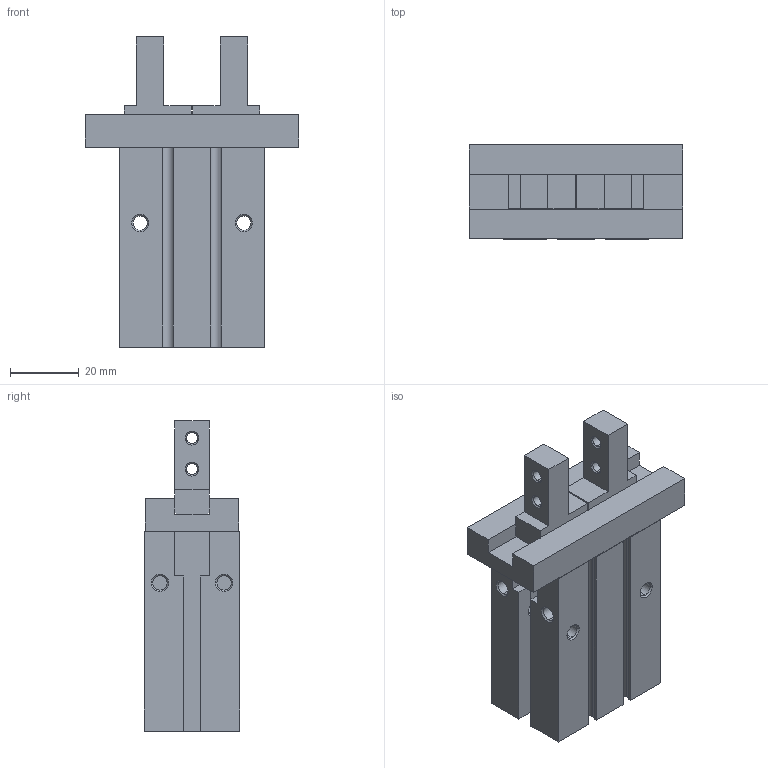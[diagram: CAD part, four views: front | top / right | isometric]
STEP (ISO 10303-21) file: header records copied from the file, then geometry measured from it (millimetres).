
FILE_DESCRIPTION (( 'STEP AP203' ), '1' );
FILE_NAME ('GMHZL2-20D.STEP', '2024-07-24T07:34:23', ( '微软用户' ), ( '微软中国' ), 'SwSTEP 2.0', 'SolidWorks 2018', '' );
FILE_SCHEMA (( 'CONFIG_CONTROL_DESIGN' ));
Length unit declared in the file: millimetre
Products named in the file (3): _MHZL2-20D_Body(0); _MHZL2-20D_Finger(0); GMHZL2-20D
Assembly tree (3 placements, depth 2):
  GMHZL2-20D
    _MHZL2-20D_Body(0)
    _MHZL2-20D_Finger(0)  x2
Bounding box: 62 x 27.6 x 90 mm (x, y, z)
Volume: 73670.1 mm3; surface area: 22553.7 mm2
Topology: 3 solids, 3 shells, 220 faces, 556 edges, 352 vertices
Faces by surface type: plane 124, cylinder 52, cone 44
Entity records: 6065 total; most frequent: DIRECTION 1016, CARTESIAN_POINT 1012, ORIENTED_EDGE 968, EDGE_CURVE 484, AXIS2_PLACEMENT_3D 344, VECTOR 328, LINE 328, VERTEX_POINT 308
